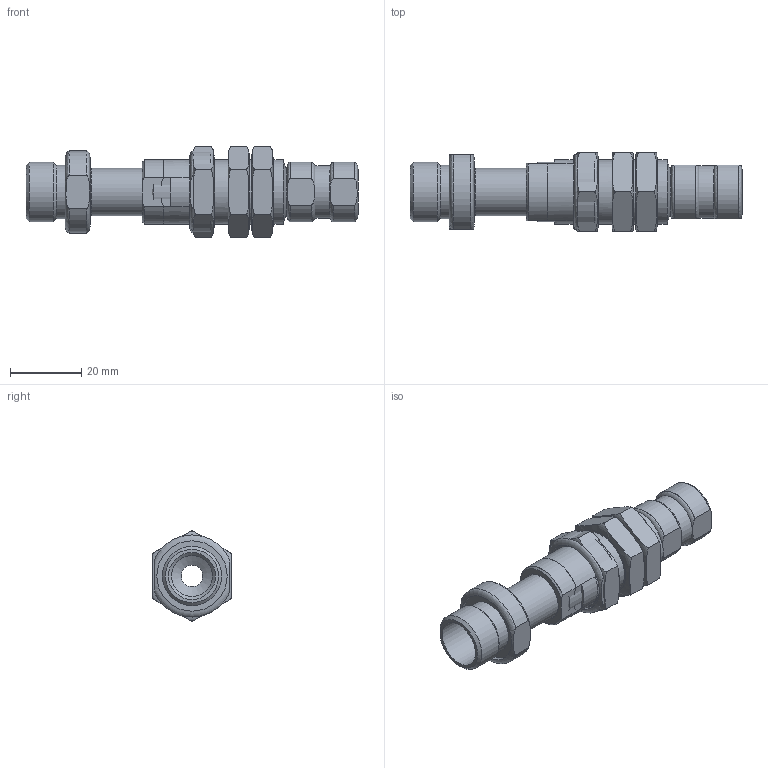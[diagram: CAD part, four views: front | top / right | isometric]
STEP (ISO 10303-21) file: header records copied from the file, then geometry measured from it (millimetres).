
FILE_DESCRIPTION( ( 'Unknown' ), '1' );
FILE_NAME( 'C:/Documents and Settings/Owner/官帕 拳搁/LEVEL SPRING HOMEPAGE/L3820TS/L3820TS.stp', 'Unknown', ( 'Unknown' ), ( 'Unknown' ), 'PSStep 10.0', 'Unknown', ' ' );
FILE_SCHEMA( ( 'AUTOMOTIVE_DESIGN { 1 0 10303 214 1 1 1 1 }' ) );
Length unit declared in the file: millimetre
Products named in the file (6): Assem1; sha; nipple; hou; upper; NUT(M18XP1)
Bounding box: 93 x 22 x 25.4 mm (x, y, z)
Surface area: 28282.9 mm2 (no closed solid volume)
Topology: 0 solids, 183 shells, 183 faces, 671 edges, 574 vertices
Faces by surface type: plane 70, cylinder 55, cone 32, revolution 18, torus 8
Full cylindrical faces by diameter (mm): 6 x4, 8.8 x4, 9.8 x8, 10 x4, 10.5 x2, 11.44 x2, 13.15 x2, 13.2 x4, 14.7 x2, 14.9 x2, 16.6 x2, 18 x5, 19.7 x2
Entity records: 5207 total; most frequent: CARTESIAN_POINT 2089, DIRECTION 530, ORIENTED_EDGE 258, EDGE_CURVE 258, VERTEX_POINT 258, AXIS2_PLACEMENT_3D 235, CIRCLE 150, FACE_BOUND 148
